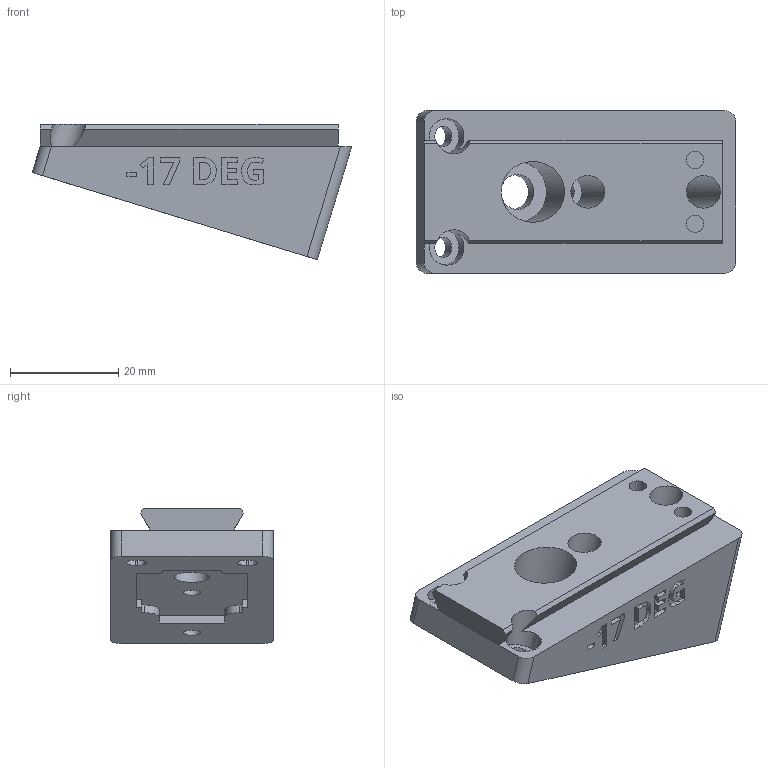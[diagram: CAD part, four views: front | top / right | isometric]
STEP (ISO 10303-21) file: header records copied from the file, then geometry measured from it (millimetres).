
FILE_DESCRIPTION(/* description */ ('STEP AP242 Edition 2','CAx-IF Rec.Pracs.---Representation and Presentation of Product Manufacturing Information (PMI)---4.0---2014-10-13','CAx-IF Rec.Pracs.---3D Tessellated Geometry---0.4---2014-09-14','2;1','CAx-IF Rec.Pracs.---User Defined Attributes---1.5---2016-08-15'),/* implementation_level */ '2;1');
FILE_NAME(/* name */ 'Camera Wedges - CAMERA MOUNTING WEDGE, NEG, -17 DEG',/* time_stamp */ '2026-07-08T20:34:53Z',/* author */ (''),/* organization */ (''),/* preprocessor_version */ 'ST-DEVELOPER v20',/* originating_system */ 'ONSHAPE BY PTC INC, 1.217',/* authorisation */ ' ');
FILE_SCHEMA (('AP242_MANAGED_MODEL_BASED_3D_ENGINEERING_MIM_LF { 1 0 10303 442 3 1 4 }'));
Length unit declared in the file: metre
Products named in the file (1): CAMERA MOUNTING WEDGE, NEG, -17 DEG
Bounding box: 58.97 x 30 x 24.95 mm (x, y, z)
Volume: 22557.9 mm3; surface area: 8005.6 mm2
Topology: 1 solids, 1 shells, 219 faces, 589 edges, 392 vertices
Faces by surface type: plane 153, cylinder 36, bspline 30
Full cylindrical faces by diameter (mm): 3.2 x4, 6 x2, 6.4 x1, 11.2 x1
Entity records: 6913 total; most frequent: CARTESIAN_POINT 1523, ORIENTED_EDGE 1162, DIRECTION 985, EDGE_CURVE 581, LINE 437, VECTOR 437, VERTEX_POINT 392, AXIS2_PLACEMENT_3D 274
